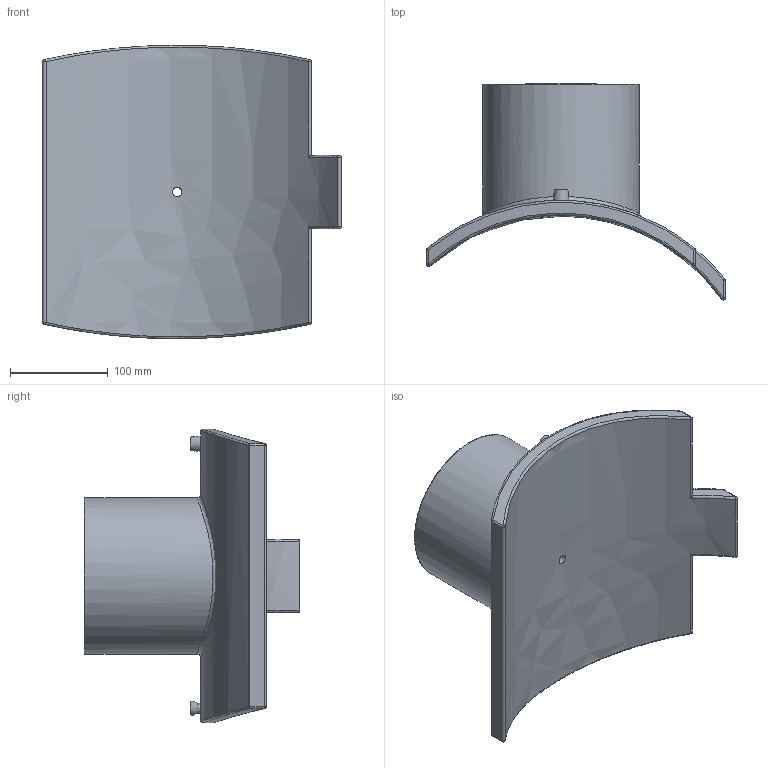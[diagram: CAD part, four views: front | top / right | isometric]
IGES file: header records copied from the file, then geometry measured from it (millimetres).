
Global section: file name: 495804400160T.ipt; native system: Autodesk Inventor 2015; preprocessor: unknown; author: KIM; date: 20171106.094342; units: millimetre
Bounding box: 305 x 220.54 x 299.94 mm (x, y, z)
Volume: 2267745.9 mm3; surface area: 319756.2 mm2
Topology: 2 solids, 2 shells, 66 faces, 132 edges, 78 vertices
Faces by surface type: cylinder 22, plane 14, sphere 12, revolution 11, bspline 5, cone 2
Full cylindrical faces by diameter (mm): 4 x2, 16 x1, 160 x1
